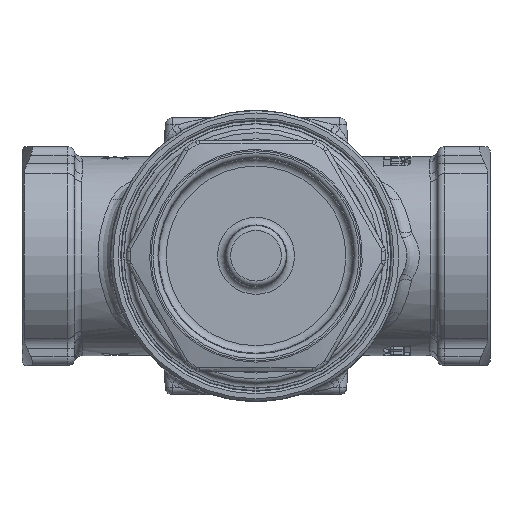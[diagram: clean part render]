
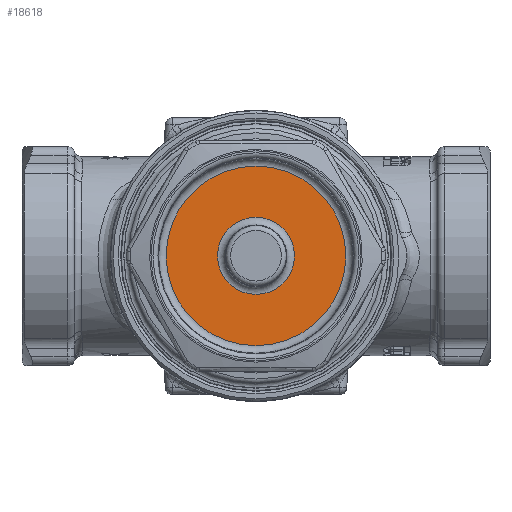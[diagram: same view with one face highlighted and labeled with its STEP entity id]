
A CAD part, top view. The second image highlights one B-rep face of the part: STEP entity #18618.
In plain terms, the highlighted planar face has unit normal (0, 0, 1).
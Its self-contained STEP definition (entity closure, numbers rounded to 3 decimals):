
#377=PLANE('',#20002);
#6058=ORIENTED_EDGE('',*,*,#8421,.T.);
#6059=ORIENTED_EDGE('',*,*,#8422,.T.);
#8421=EDGE_CURVE('',#9826,#9826,#10477,.F.);
#8422=EDGE_CURVE('',#9827,#9827,#10478,.T.);
#9826=VERTEX_POINT('',#33606);
#9827=VERTEX_POINT('',#33608);
#10477=CIRCLE('',#20003,7.647);
#10478=CIRCLE('',#20004,17.853);
#11414=EDGE_LOOP('',(#6058));
#11415=EDGE_LOOP('',(#6059));
#12413=FACE_BOUND('',#11414,.T.);
#12414=FACE_BOUND('',#11415,.T.);
#18618=ADVANCED_FACE('',(#12413,#12414),#377,.T.);
#20002=AXIS2_PLACEMENT_3D('',#33604,#23166,#23167);
#20003=AXIS2_PLACEMENT_3D('',#33605,#23168,#23169);
#20004=AXIS2_PLACEMENT_3D('',#33607,#23170,#23171);
#23166=DIRECTION('',(0.,0.,1.));
#23167=DIRECTION('',(1.,0.,0.));
#23168=DIRECTION('',(0.,0.,1.));
#23169=DIRECTION('',(1.,0.,0.));
#23170=DIRECTION('',(0.,0.,1.));
#23171=DIRECTION('',(1.,0.,0.));
#33604=CARTESIAN_POINT('',(-19.314,0.,16.));
#33605=CARTESIAN_POINT('',(0.,0.,16.));
#33606=CARTESIAN_POINT('',(7.647,0.,16.));
#33607=CARTESIAN_POINT('',(0.,0.,16.));
#33608=CARTESIAN_POINT('',(17.853,0.,16.));
